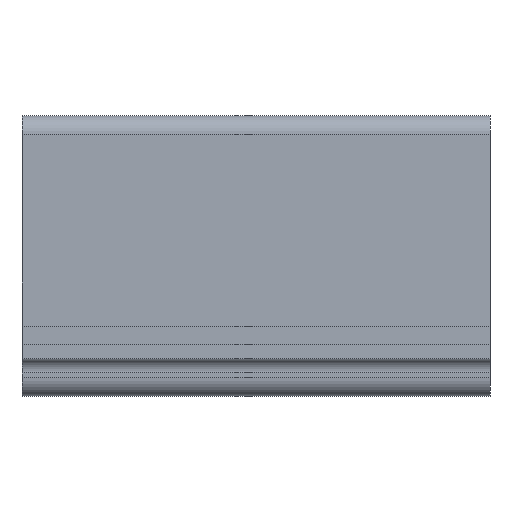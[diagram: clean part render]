
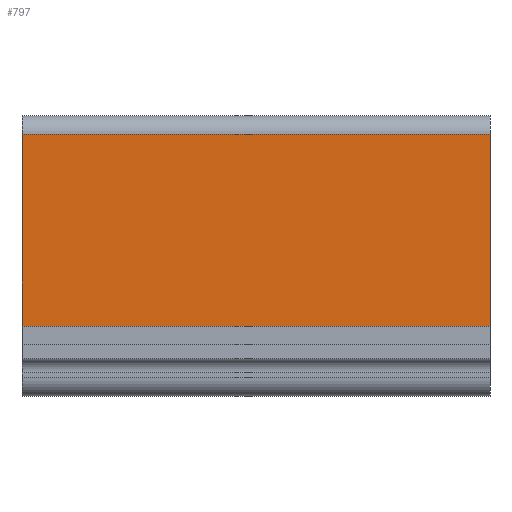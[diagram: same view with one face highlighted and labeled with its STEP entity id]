
A CAD part, front view. The second image highlights one B-rep face of the part: STEP entity #797.
In plain terms, the highlighted planar face has unit normal (0, -1, 0).
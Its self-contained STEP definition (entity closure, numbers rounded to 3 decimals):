
#517=VERTEX_POINT('',#1213);
#539=VERTEX_POINT('',#1238);
#589=EDGE_CURVE('',#749,#539,#1296,.T.);
#669=VERTEX_POINT('',#1384);
#749=VERTEX_POINT('',#1468);
#797=ADVANCED_FACE('',(#1524),#1525,.T.);
#825=EDGE_CURVE('',#669,#749,#1554,.T.);
#829=EDGE_CURVE('',#517,#539,#1558,.T.);
#1017=EDGE_CURVE('',#517,#669,#1760,.T.);
#1213=CARTESIAN_POINT('',(0.0,-11.25,13.0));
#1238=CARTESIAN_POINT('',(50.0,-11.25,13.0));
#1296=LINE('',#2130,#2131);
#1384=CARTESIAN_POINT('',(0.0,-11.25,-7.5));
#1468=CARTESIAN_POINT('',(50.0,-11.25,-7.5));
#1524=FACE_OUTER_BOUND('',#2439,.T.);
#1525=PLANE('',#2440);
#1554=LINE('',#2484,#2485);
#1558=LINE('',#2492,#2493);
#1760=LINE('',#2795,#2796);
#2130=CARTESIAN_POINT('',(50.0,-11.25,13.0));
#2131=VECTOR('',#3141,1.0);
#2439=EDGE_LOOP('',(#3368,#3369,#3370,#3371));
#2440=AXIS2_PLACEMENT_3D('',#3372,#3373,#3374);
#2484=CARTESIAN_POINT('',(0.0,-11.25,-7.5));
#2485=VECTOR('',#3390,1.0);
#2492=CARTESIAN_POINT('',(0.0,-11.25,13.0));
#2493=VECTOR('',#3392,1.0);
#2795=CARTESIAN_POINT('',(0.0,-11.25,13.0));
#2796=VECTOR('',#3577,1.0);
#3141=DIRECTION('',(0.0,0.0,1.0));
#3368=ORIENTED_EDGE('',*,*,#589,.T.);
#3369=ORIENTED_EDGE('',*,*,#829,.F.);
#3370=ORIENTED_EDGE('',*,*,#1017,.T.);
#3371=ORIENTED_EDGE('',*,*,#825,.T.);
#3372=CARTESIAN_POINT('',(0.0,-11.25,-7.5));
#3373=DIRECTION('',(0.0,-1.0,0.0));
#3374=DIRECTION('',(0.0,0.0,-1.0));
#3390=DIRECTION('',(1.0,0.0,0.0));
#3392=DIRECTION('',(1.0,0.0,0.0));
#3577=DIRECTION('',(0.0,0.0,-1.0));
